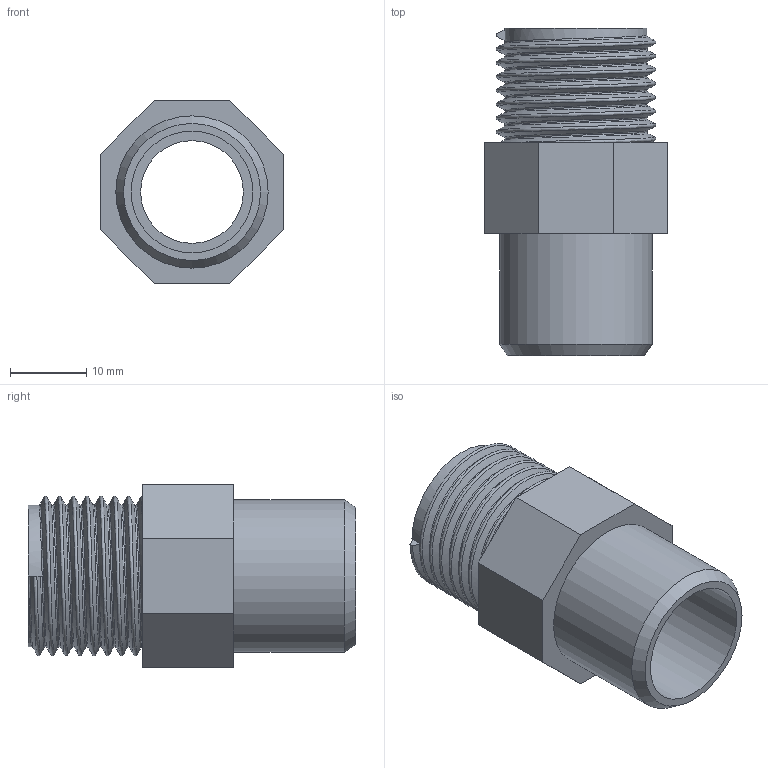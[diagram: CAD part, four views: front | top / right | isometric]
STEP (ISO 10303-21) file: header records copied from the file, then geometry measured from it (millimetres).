
FILE_DESCRIPTION(/* description */ ('PVC adattatore incollaggio-filettatura BSP maschio'),/* implementation_level */ '2;1');
FILE_NAME(/* name */ 'C:\Users\POLYPIPE\Desktop\DATASET INVENTOR\LIBRERIA EFFAST\RACCORDI 3DxWEB\RGR\3D_RGRAMG\3D_RGRAMG016B.stp',/* time_stamp */ '2018-01-19T17:34:00+01:00',/* author */ ('POLYPIPE'),/* organization */ ('Polypipe Italia s.r.l.'),/* preprocessor_version */ 'ST-DEVELOPER v16.1',/* originating_system */ 'Autodesk Inventor 2016',/* authorisation */ '');
FILE_SCHEMA (('CONFIG_CONTROL_DESIGN'));
Length unit declared in the file: millimetre
Products named in the file (1): 3D_RGRAMG
Bounding box: 24 x 43 x 24 mm (x, y, z)
Volume: 7872.1 mm3; surface area: 6099.2 mm2
Topology: 1 solids, 1 shells, 26 faces, 56 edges, 36 vertices
Faces by surface type: plane 15, cylinder 5, bspline 5, cone 1
Full cylindrical faces by diameter (mm): 13.5 x1, 14.5 x1, 16 x1, 18.631 x1, 20 x1
Entity records: 3695 total; most frequent: CARTESIAN_POINT 3142, ORIENTED_EDGE 102, DIRECTION 97, EDGE_CURVE 51, EDGE_LOOP 37, VERTEX_POINT 36, AXIS2_PLACEMENT_3D 35, LINE 27
